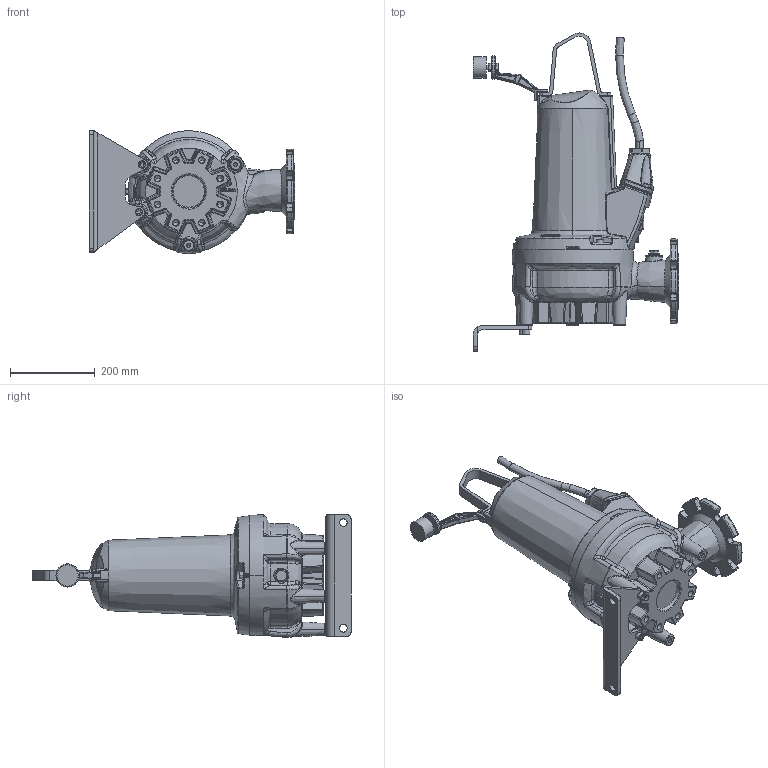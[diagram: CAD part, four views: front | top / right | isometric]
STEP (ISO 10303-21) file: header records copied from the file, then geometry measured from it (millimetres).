
FILE_DESCRIPTION (( 'STEP AP214' ), '1' );
FILE_NAME ('XFP81C-VX - Dry Horizontal.STEP', '2017-08-04T15:05:49', ( '' ), ( '' ), 'SwSTEP 2.0', 'SolidWorks 2017', '' );
FILE_SCHEMA (( 'AUTOMOTIVE_DESIGN' ));
Length unit declared in the file: inch
Products named in the file (1): XFP81C-VX - Dry Horizontal
Bounding box: 485 x 752.36 x 290.59 mm (x, y, z)
Volume: 21825315.5 mm3; surface area: 829090.4 mm2
Topology: 3 solids, 24 shells, 2426 faces, 5746 edges, 3350 vertices
Faces by surface type: bspline 1117, cylinder 680, plane 506, cone 123
Entity records: 157729 total; most frequent: CARTESIAN_POINT 78666, ORIENTED_EDGE 11222, DIRECTION 7925, EDGE_CURVE 5611, VERTEX_POINT 3350, AXIS2_PLACEMENT_3D 3040, EDGE_LOOP 2573, UNCERTAINTY_MEASURE_WITH_UNIT 2431
